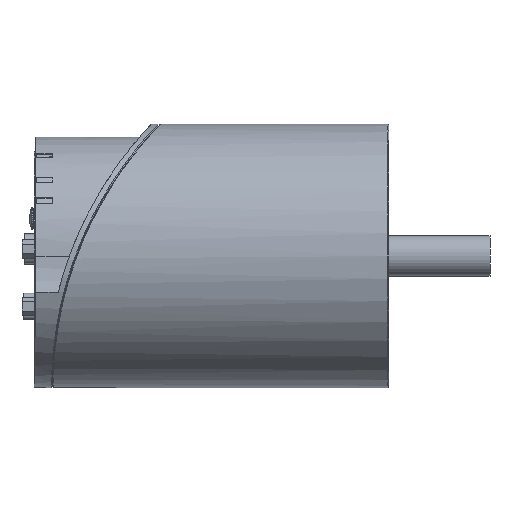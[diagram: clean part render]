
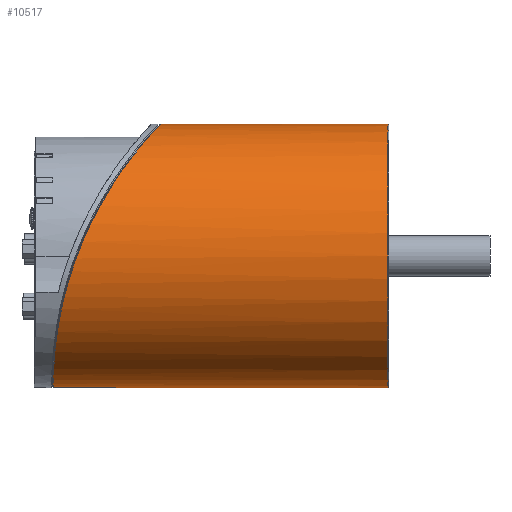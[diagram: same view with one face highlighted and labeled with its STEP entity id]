
A CAD part, left-side view. The second image highlights one B-rep face of the part: STEP entity #10517.
In plain terms, the highlighted cylindrical face has radius 41 mm (diameter 82 mm), a full revolution.
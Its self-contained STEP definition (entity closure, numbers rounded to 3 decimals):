
#265=B_SPLINE_CURVE_WITH_KNOTS('',3,(#17518,#17519,#17520,#17521,#17522,
#17523,#17524,#17525,#17526,#17527,#17528,#17529,#17530,#17531,#17532,#17533,
#17534,#17535,#17536,#17537,#17538,#17539,#17540,#17541,#17542,#17543,#17544,
#17545,#17546,#17547,#17548,#17549,#17550,#17551),.UNSPECIFIED.,.T.,.F.,
(4,1,1,1,1,1,1,1,1,1,1,1,1,1,1,1,1,1,1,1,1,1,1,1,1,1,1,1,1,1,1,4),(-26.603,
-26.128,-25.653,-25.178,-24.703,
-23.753,-22.803,-22.169,-21.536,
-20.269,-19.636,-19.002,-17.735,
-16.469,-15.202,-13.935,-12.668,
-11.401,-10.135,-8.868,-7.601,
-6.967,-6.334,-5.067,-4.434,
-3.8,-2.85,-1.9,-1.425,
-0.95,-0.475,0.),
 .UNSPECIFIED.);
#2351=FACE_BOUND('',#3462,.T.);
#2739=FACE_OUTER_BOUND('',#3461,.T.);
#3461=EDGE_LOOP('',(#7875));
#3462=EDGE_LOOP('',(#7876));
#4047=CIRCLE('',#11417,41.);
#4679=VERTEX_POINT('',#17478);
#4681=VERTEX_POINT('',#17553);
#5836=EDGE_CURVE('',#4679,#4679,#265,.T.);
#5837=EDGE_CURVE('',#4681,#4681,#4047,.T.);
#7875=ORIENTED_EDGE('',*,*,#5836,.F.);
#7876=ORIENTED_EDGE('',*,*,#5837,.F.);
#9479=CYLINDRICAL_SURFACE('',#11416,41.);
#10517=ADVANCED_FACE('',(#2739,#2351),#9479,.T.);
#11416=AXIS2_PLACEMENT_3D('',#17552,#13457,#13458);
#11417=AXIS2_PLACEMENT_3D('',#17554,#13459,#13460);
#13457=DIRECTION('center_axis',(0.,-1.,0.));
#13458=DIRECTION('ref_axis',(-1.,0.,0.));
#13459=DIRECTION('center_axis',(0.,-1.,0.));
#13460=DIRECTION('ref_axis',(-1.,0.,0.));
#17478=CARTESIAN_POINT('',(0.,2.167,41.));
#17518=CARTESIAN_POINT('Ctrl Pts',(0.,2.167,
41.));
#17519=CARTESIAN_POINT('Ctrl Pts',(1.056,2.167,41.));
#17520=CARTESIAN_POINT('Ctrl Pts',(3.187,2.247,40.918));
#17521=CARTESIAN_POINT('Ctrl Pts',(6.597,2.632,40.522));
#17522=CARTESIAN_POINT('Ctrl Pts',(10.654,3.442,39.679));
#17523=CARTESIAN_POINT('Ctrl Pts',(16.678,5.294,37.695));
#17524=CARTESIAN_POINT('Ctrl Pts',(23.855,8.718,33.825));
#17525=CARTESIAN_POINT('Ctrl Pts',(30.337,13.255,27.976));
#17526=CARTESIAN_POINT('Ctrl Pts',(34.786,17.282,22.001));
#17527=CARTESIAN_POINT('Ctrl Pts',(38.589,21.583,14.817));
#17528=CARTESIAN_POINT('Ctrl Pts',(40.685,25.327,7.252));
#17529=CARTESIAN_POINT('Ctrl Pts',(41.144,28.484,-0.697));
#17530=CARTESIAN_POINT('Ctrl Pts',(40.4,31.22,-8.866));
#17531=CARTESIAN_POINT('Ctrl Pts',(37.12,33.67,-18.921));
#17532=CARTESIAN_POINT('Ctrl Pts',(29.505,35.13,-29.441));
#17533=CARTESIAN_POINT('Ctrl Pts',(18.939,35.573,-37.133));
#17534=CARTESIAN_POINT('Ctrl Pts',(6.527,35.598,-41.167));
#17535=CARTESIAN_POINT('Ctrl Pts',(-6.528,35.598,-41.167));
#17536=CARTESIAN_POINT('Ctrl Pts',(-18.938,35.573,-37.133));
#17537=CARTESIAN_POINT('Ctrl Pts',(-29.507,35.13,-29.44));
#17538=CARTESIAN_POINT('Ctrl Pts',(-37.118,33.67,-18.923));
#17539=CARTESIAN_POINT('Ctrl Pts',(-40.401,31.221,-8.866));
#17540=CARTESIAN_POINT('Ctrl Pts',(-41.144,28.484,-0.697));
#17541=CARTESIAN_POINT('Ctrl Pts',(-40.685,25.327,7.252));
#17542=CARTESIAN_POINT('Ctrl Pts',(-38.588,21.583,14.817));
#17543=CARTESIAN_POINT('Ctrl Pts',(-34.786,17.282,22.001));
#17544=CARTESIAN_POINT('Ctrl Pts',(-30.337,13.255,27.976));
#17545=CARTESIAN_POINT('Ctrl Pts',(-23.855,8.718,33.825));
#17546=CARTESIAN_POINT('Ctrl Pts',(-16.678,5.294,37.695));
#17547=CARTESIAN_POINT('Ctrl Pts',(-10.654,3.442,39.679));
#17548=CARTESIAN_POINT('Ctrl Pts',(-6.597,2.632,40.522));
#17549=CARTESIAN_POINT('Ctrl Pts',(-3.187,2.247,40.918));
#17550=CARTESIAN_POINT('Ctrl Pts',(-1.056,2.167,41.));
#17551=CARTESIAN_POINT('Ctrl Pts',(0.,2.167,
41.));
#17552=CARTESIAN_POINT('Origin',(0.,40.8,
0.));
#17553=CARTESIAN_POINT('',(41.,-68.6,0.));
#17554=CARTESIAN_POINT('Origin',(0.,-68.6,
0.));
